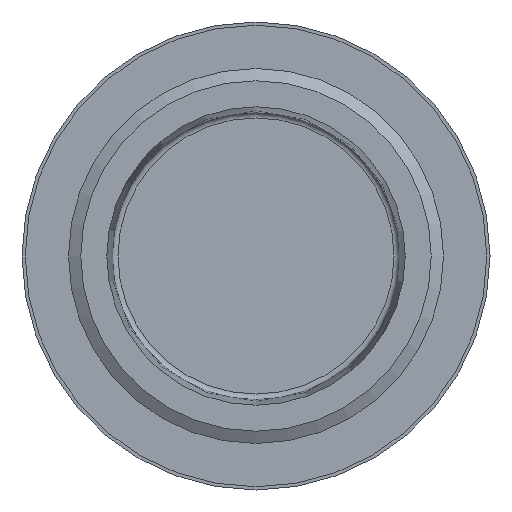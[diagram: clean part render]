
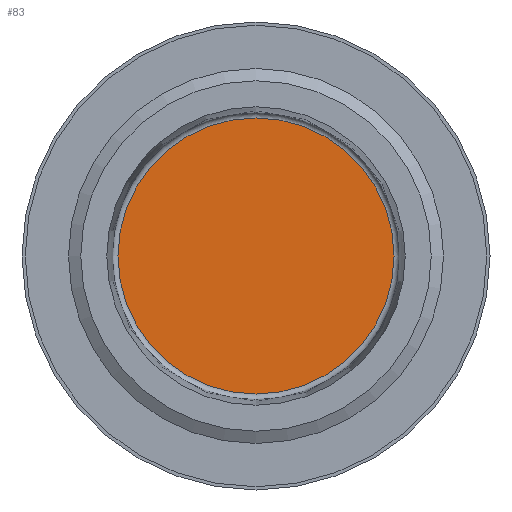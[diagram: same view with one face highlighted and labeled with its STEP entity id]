
A CAD part, front view. The second image highlights one B-rep face of the part: STEP entity #83.
In plain terms, the highlighted planar face has unit normal (0, -1, 0).
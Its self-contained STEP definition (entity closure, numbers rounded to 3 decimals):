
#83 = ADVANCED_FACE( '', ( #120 ), #121, .T. );
#120 = FACE_OUTER_BOUND( '', #178, .T. );
#121 = PLANE( '', #179 );
#178 = EDGE_LOOP( '', ( #260 ) );
#179 = AXIS2_PLACEMENT_3D( '', #261, #262, #263 );
#260 = ORIENTED_EDGE( '', *, *, #360, .T. );
#261 = CARTESIAN_POINT( '', ( 0., 11.5, 0. ) );
#262 = DIRECTION( '', ( 0., -1., 0. ) );
#263 = DIRECTION( '', ( 0., 0., -1. ) );
#360 = EDGE_CURVE( '', #407, #407, #408, .T. );
#407 = VERTEX_POINT( '', #474 );
#408 = CIRCLE( '', #475, 9.732 );
#474 = CARTESIAN_POINT( '', ( 0., 11.5, -9.732 ) );
#475 = AXIS2_PLACEMENT_3D( '', #540, #541, #542 );
#540 = CARTESIAN_POINT( '', ( 0., 11.5, 0. ) );
#541 = DIRECTION( '', ( 0., -1., 0. ) );
#542 = DIRECTION( '', ( 0., 0., -1. ) );
